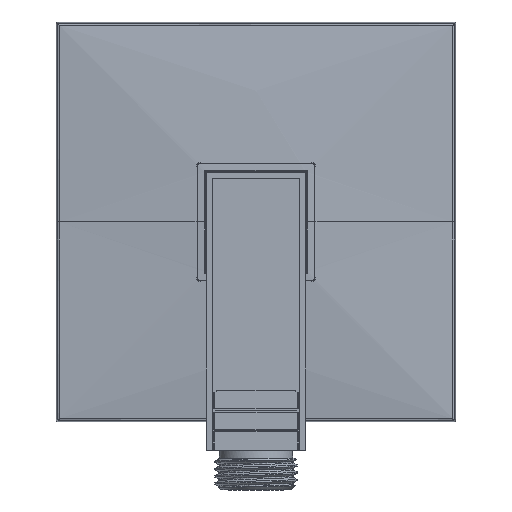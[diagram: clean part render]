
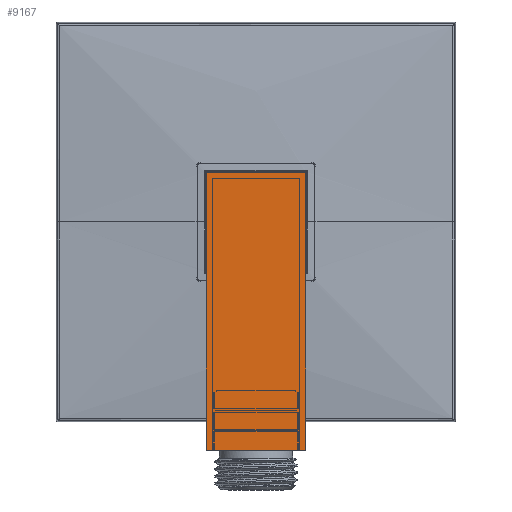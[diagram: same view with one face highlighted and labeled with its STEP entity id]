
A CAD part, front view. The second image highlights one B-rep face of the part: STEP entity #9167.
In plain terms, the highlighted planar face has unit normal (0, -1, 0).
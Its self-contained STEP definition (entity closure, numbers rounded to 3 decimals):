
#340 = VERTEX_POINT ( 'NONE', #31026 ) ;
#1038 = DIRECTION ( 'NONE',  ( 0., 0., -1. ) ) ;
#2495 = LINE ( 'NONE', #37601, #22709 ) ;
#3400 = LINE ( 'NONE', #18550, #46827 ) ;
#3889 = CARTESIAN_POINT ( 'NONE',  ( 0., -512.5, -57.5 ) ) ;
#4527 = EDGE_CURVE ( 'NONE', #340, #18433, #39567, .T. ) ;
#4884 = CARTESIAN_POINT ( 'NONE',  ( 12.5, -512.5, 0. ) ) ;
#5651 = CARTESIAN_POINT ( 'NONE',  ( 12.5, -512.5, -57.5 ) ) ;
#6148 = DIRECTION ( 'NONE',  ( -1., 0., 0. ) ) ;
#7771 = CARTESIAN_POINT ( 'NONE',  ( -12.5, -512.5, -57.5 ) ) ;
#8228 = DIRECTION ( 'NONE',  ( 0., -1., 0. ) ) ;
#9167 = ADVANCED_FACE ( 'NONE', ( #11394 ), #15689, .T. ) ;
#9406 = VERTEX_POINT ( 'NONE', #7771 ) ;
#9957 = ORIENTED_EDGE ( 'NONE', *, *, #4527, .T. ) ;
#11057 = DIRECTION ( 'NONE',  ( 0., 0., -1. ) ) ;
#11394 = FACE_OUTER_BOUND ( 'NONE', #31929, .T. ) ;
#15689 = PLANE ( 'NONE',  #18594 ) ;
#17115 = EDGE_CURVE ( 'NONE', #340, #46062, #3400, .T. ) ;
#17387 = CARTESIAN_POINT ( 'NONE',  ( -12.5, -512.5, 12.5 ) ) ;
#18433 = VERTEX_POINT ( 'NONE', #17387 ) ;
#18550 = CARTESIAN_POINT ( 'NONE',  ( 12.5, -512.5, -12.5 ) ) ;
#18594 = AXIS2_PLACEMENT_3D ( 'NONE', #4884, #8228, #1038 ) ;
#21128 = CARTESIAN_POINT ( 'NONE',  ( 12.5, -512.5, 12.5 ) ) ;
#22709 = VECTOR ( 'NONE', #41904, 1000. ) ;
#25735 = EDGE_CURVE ( 'NONE', #46062, #9406, #41744, .T. ) ;
#28098 = ORIENTED_EDGE ( 'NONE', *, *, #25735, .F. ) ;
#29233 = VECTOR ( 'NONE', #45486, 1000. ) ;
#29434 = VECTOR ( 'NONE', #6148, 1000. ) ;
#29878 = ORIENTED_EDGE ( 'NONE', *, *, #41351, .T. ) ;
#31026 = CARTESIAN_POINT ( 'NONE',  ( 12.5, -512.5, 12.5 ) ) ;
#31929 = EDGE_LOOP ( 'NONE', ( #39828, #9957, #29878, #28098 ) ) ;
#37601 = CARTESIAN_POINT ( 'NONE',  ( -12.5, -512.5, 0. ) ) ;
#39567 = LINE ( 'NONE', #21128, #29434 ) ;
#39828 = ORIENTED_EDGE ( 'NONE', *, *, #17115, .F. ) ;
#41351 = EDGE_CURVE ( 'NONE', #18433, #9406, #2495, .T. ) ;
#41744 = LINE ( 'NONE', #3889, #29233 ) ;
#41904 = DIRECTION ( 'NONE',  ( 0., 0., -1. ) ) ;
#45486 = DIRECTION ( 'NONE',  ( -1., 0., 0. ) ) ;
#46062 = VERTEX_POINT ( 'NONE', #5651 ) ;
#46827 = VECTOR ( 'NONE', #11057, 1000. ) ;
